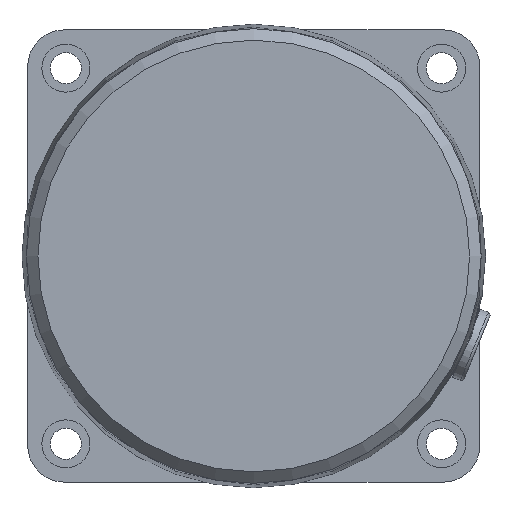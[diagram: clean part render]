
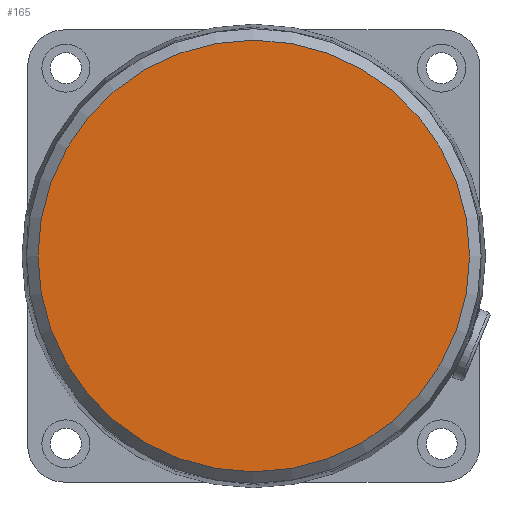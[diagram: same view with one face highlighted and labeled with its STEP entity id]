
A CAD part, left-side view. The second image highlights one B-rep face of the part: STEP entity #165.
In plain terms, the highlighted planar face has unit normal (-1, 0, 0).
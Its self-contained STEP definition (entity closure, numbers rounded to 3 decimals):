
#84=CARTESIAN_POINT('',(-38.5,0.,-38.18));
#85=VERTEX_POINT('',#84);
#86=CARTESIAN_POINT('',(-38.5,0.,0.0));
#87=DIRECTION('',(1.0,0.0,0.0));
#88=DIRECTION('',(0.0,0.0,1.0));
#89=AXIS2_PLACEMENT_3D('',#86,#87,#88);
#90=CIRCLE('',#89,38.18);
#91=EDGE_CURVE('',#85,#85,#90,.T.);
#157=CARTESIAN_POINT('',(-38.5,0.,0.));
#158=DIRECTION('',(-1.0,0.0,0.0));
#159=DIRECTION('',(0.0,0.0,1.0));
#160=AXIS2_PLACEMENT_3D('',#157,#158,#159);
#161=PLANE('',#160);
#162=ORIENTED_EDGE('',*,*,#91,.F.);
#163=EDGE_LOOP('',(#162));
#164=FACE_OUTER_BOUND('',#163,.T.);
#165=ADVANCED_FACE('',(#164),#161,.T.);
